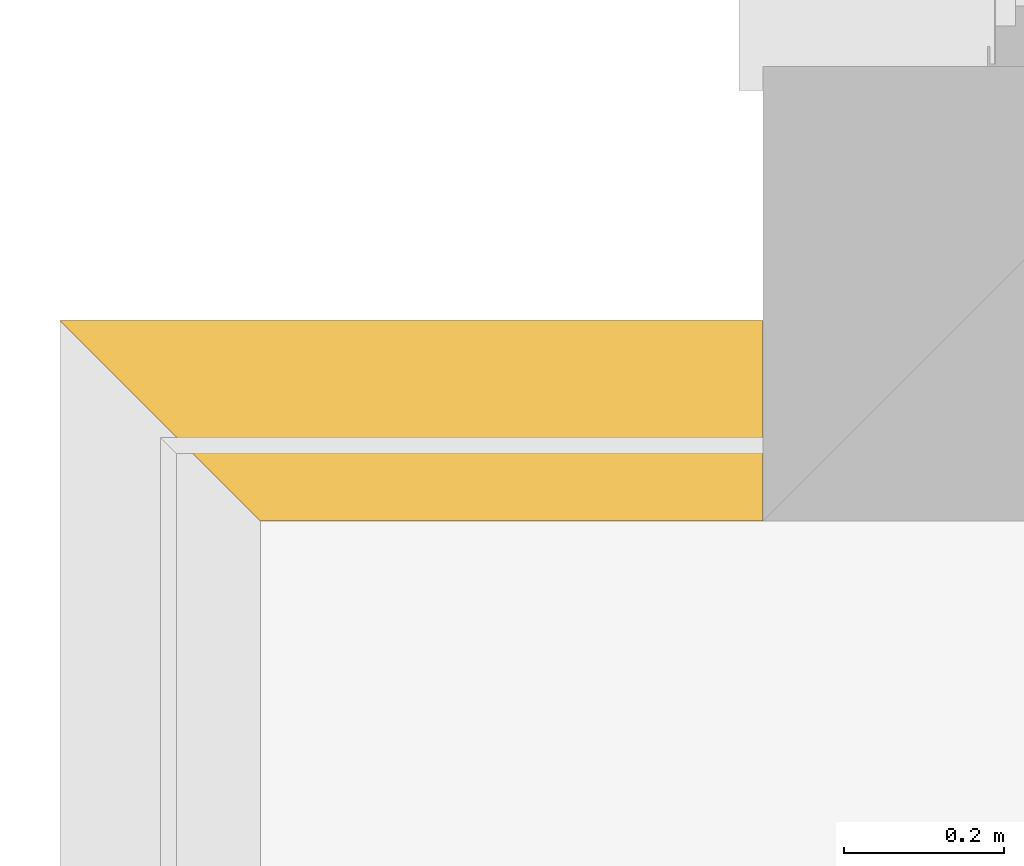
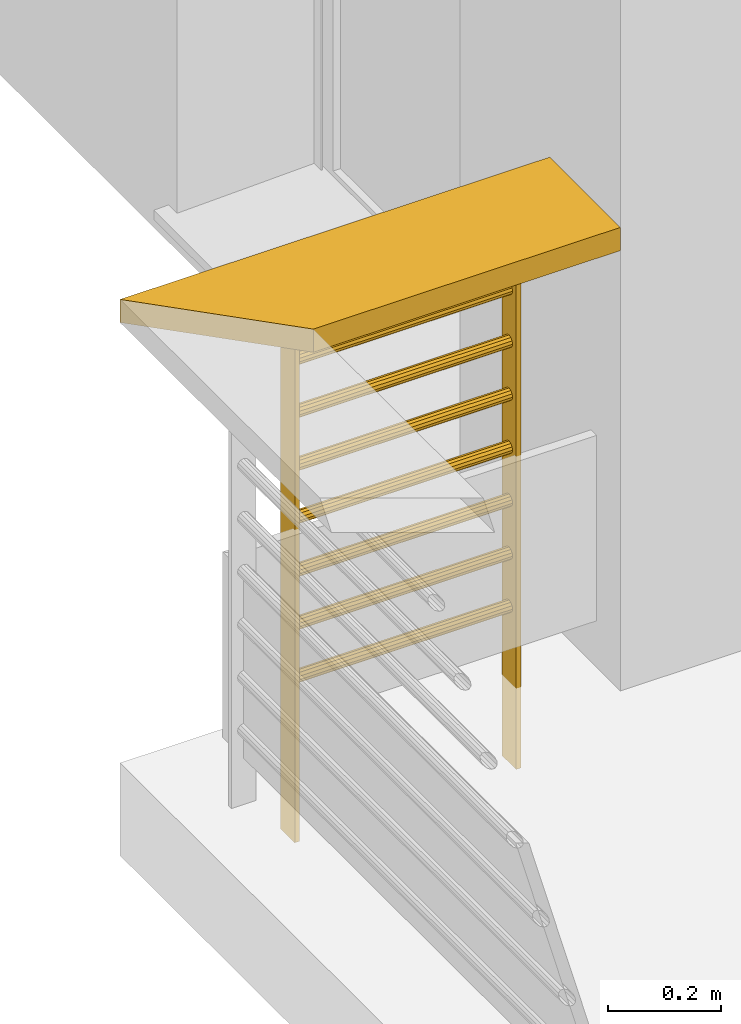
# One storey, part 101 of 164: 1 railing.
"""IFC2X3 building model written with IfcOpenShell, lengths in millimetres."""

from ifc_helpers import new_model, entity, si_unit, converted_unit, derived_unit, money_unit, direction, frame, origin_with_axes, place, context, subcontext, project, spatial, faceted_brep, type_object, element, save


model = new_model("IFC2X3")

# Units and contexts
model_context = context("Model", 3, precision=0.01, world=origin_with_axes(), true_north=direction((0.0, 1.0)))
body_context = subcontext(model_context, "Body", "Model", "MODEL_VIEW")
ifc_project = project(units=[si_unit("LENGTHUNIT", "METRE", prefix="MILLI"), si_unit("AREAUNIT", "SQUARE_METRE"), si_unit("VOLUMEUNIT", "CUBIC_METRE"), converted_unit("PLANEANGLEUNIT", "DEGREE", entity("IfcPlaneAngleMeasure", 0.0174532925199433), si_unit("PLANEANGLEUNIT", "RADIAN"), dimensions=[0, 0, 0, 0, 0, 0, 0]), money_unit("USD"), converted_unit("TIMEUNIT", "Year", entity("IfcTimeMeasure", 31557600.0), si_unit("TIMEUNIT", "SECOND"), dimensions=[0, 0, 1, 0, 0, 0, 0]), si_unit("MASSUNIT", "GRAM", prefix="KILO"), si_unit("THERMODYNAMICTEMPERATUREUNIT", "DEGREE_CELSIUS"), si_unit("LUMINOUSINTENSITYUNIT", "LUMEN"), si_unit("ENERGYUNIT", "JOULE", prefix="MEGA"), derived_unit("THERMALCONDUCTANCEUNIT", [(si_unit("POWERUNIT", "WATT"), 1), (si_unit("LENGTHUNIT", "METRE"), -1), (si_unit("THERMODYNAMICTEMPERATUREUNIT", "KELVIN"), -1)]), derived_unit("SPECIFICHEATCAPACITYUNIT", [(si_unit("ENERGYUNIT", "JOULE"), 1), (si_unit("MASSUNIT", "GRAM", prefix="KILO"), -1), (si_unit("THERMODYNAMICTEMPERATUREUNIT", "KELVIN"), -1)]), derived_unit("MASSDENSITYUNIT", [(si_unit("MASSUNIT", "GRAM", prefix="KILO"), 1), (si_unit("VOLUMEUNIT", "CUBIC_METRE"), -1)])], contexts=[model_context])

# Site, building, storey
site_placement = place(None, origin_with_axes())
site = spatial("IfcSite", under=ifc_project, at=site_placement, Name="Site", CompositionType="ELEMENT")
building_placement = place(site_placement, origin_with_axes())
building = spatial("IfcBuilding", under=site, at=building_placement, Name="Bâtiment", CompositionType="ELEMENT")
storey_placement = place(building_placement, frame((0.0, 0.0, 5750.0), z_axis=(0.0, 0.0, 1.0), x_axis=(1.0, 0.0, 0.0)))
storey = spatial("IfcBuildingStorey", under=building, at=storey_placement, Name="Etage1", CompositionType="ELEMENT", Elevation=5750.0)

# Railing
railing_type = type_object("IfcRailingType", Name="Cadre avec câble 01 20", PredefinedType="NOTDEFINED")
railing_placement = place(storey_placement, frame((2216634.233344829, -654916.4677782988, 0.0), z_axis=(0.0, 0.0, 1.0), x_axis=(1.0, 0.0, 0.0)))
element("IfcRailing", 1, at=railing_placement, inside=storey, type_object=railing_type, Name="Obj.-002", PredefinedType="NOTDEFINED", context=body_context, shape_type="Brep", body=[
    faceted_brep([(-626.6148770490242, -125.0, 950.0), (-876.6148770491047, 125.0, 950.0), (0.0, 125.0, 950.0), (0.0, -125.0, 950.0), (-626.6148770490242, -125.0, 1000.0), (-876.6148770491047, 125.0, 1000.0), (0.0, 125.0, 1000.0), (0.0, -125.0, 1000.0)], [[[0, 1, 2, 3]], [[1, 0, 4, 5]], [[1, 5, 6, 2]], [[3, 2, 6, 7]], [[0, 3, 7, 4]], [[5, 4, 7, 6]]]),
    faceted_brep([(-145.0, -25.0, -176.0), (-145.0, -25.0, 950.0), (-155.0, -25.0, 950.0), (-155.0, -25.0, -176.0), (-145.0, 25.0, -176.0), (-145.0, 25.0, 950.0), (-155.0, 25.0, 950.0), (-155.0, 25.0, -176.0)], [[[0, 1, 2, 3]], [[4, 5, 1, 0]], [[1, 5, 6, 2]], [[3, 2, 6, 7]], [[0, 3, 7, 4]], [[7, 6, 5, 4]]]),
    faceted_brep([(-596.6148770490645, -25.0, -176.0), (-596.6148770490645, -25.0, 950.0), (-606.6148770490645, -25.0, 950.0), (-606.6148770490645, -25.0, -176.0), (-596.6148770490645, 25.0, -176.0), (-596.6148770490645, 25.0, 950.0), (-606.6148770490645, 25.0, 950.0), (-606.6148770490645, 25.0, -176.0)], [[[0, 1, 2, 3]], [[4, 5, 1, 0]], [[1, 5, 6, 2]], [[3, 2, 6, 7]], [[0, 3, 7, 4]], [[7, 6, 5, 4]]]),
    faceted_brep([(-155.0, 10.82531754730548, 156.25), (-596.6148770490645, 10.82531754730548, 156.25), (-596.6148770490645, 12.5, 162.5), (-155.0, 12.5, 162.5), (-155.0, 6.249999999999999, 151.6746824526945), (-596.6148770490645, 6.249999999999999, 151.6746824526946), (-596.6148770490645, 0.0, 150.0), (-596.6148770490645, -6.250000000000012, 151.6746824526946), (-596.6148770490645, -10.82531754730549, 156.2500000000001), (-596.6148770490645, -12.5, 162.5), (-596.6148770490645, -10.82531754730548, 168.75), (-596.6148770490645, -6.249999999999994, 173.3253175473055), (-596.6148770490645, 0.0, 175.0000000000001), (-596.6148770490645, 6.250000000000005, 173.3253175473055), (-596.6148770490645, 10.82531754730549, 168.75), (-155.0, 10.82531754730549, 168.75), (-155.0, 6.250000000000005, 173.3253175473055), (-155.0, 0.0, 175.0), (-155.0, -6.249999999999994, 173.3253175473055), (-155.0, -10.82531754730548, 168.75), (-155.0, -12.5, 162.5), (-155.0, -10.82531754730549, 156.25), (-155.0, -6.250000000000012, 151.6746824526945), (-155.0, 0.0, 150.0)], [[[0, 1, 2, 3]], [[4, 5, 1, 0]], [[1, 5, 6, 7, 8, 9, 10, 11, 12, 13, 14, 2]], [[3, 2, 14, 15]], [[15, 16, 17, 18, 19, 20, 21, 22, 23, 4, 0, 3]], [[23, 6, 5, 4]], [[22, 7, 6, 23]], [[21, 8, 7, 22]], [[20, 9, 8, 21]], [[19, 10, 9, 20]], [[18, 11, 10, 19]], [[17, 12, 11, 18]], [[16, 13, 12, 17]], [[15, 14, 13, 16]]]),
    faceted_brep([(-155.0, 10.82531754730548, 270.5357142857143), (-596.6148770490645, 10.82531754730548, 270.5357142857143), (-596.6148770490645, 12.5, 276.7857142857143), (-155.0, 12.5, 276.7857142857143), (-155.0, 6.249999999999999, 265.9603967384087), (-596.6148770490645, 6.249999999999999, 265.9603967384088), (-596.6148770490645, 0.0, 264.2857142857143), (-596.6148770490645, -6.250000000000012, 265.9603967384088), (-596.6148770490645, -10.82531754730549, 270.5357142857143), (-596.6148770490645, -12.5, 276.7857142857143), (-596.6148770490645, -10.82531754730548, 283.0357142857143), (-596.6148770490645, -6.249999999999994, 287.6110318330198), (-596.6148770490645, 0.0, 289.2857142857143), (-596.6148770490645, 6.250000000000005, 287.6110318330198), (-596.6148770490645, 10.82531754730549, 283.0357142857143), (-155.0, 10.82531754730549, 283.0357142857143), (-155.0, 6.250000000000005, 287.6110318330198), (-155.0, 0.0, 289.2857142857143), (-155.0, -6.249999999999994, 287.6110318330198), (-155.0, -10.82531754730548, 283.0357142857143), (-155.0, -12.5, 276.7857142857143), (-155.0, -10.82531754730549, 270.5357142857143), (-155.0, -6.250000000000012, 265.9603967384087), (-155.0, 0.0, 264.2857142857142)], [[[0, 1, 2, 3]], [[4, 5, 1, 0]], [[1, 5, 6, 7, 8, 9, 10, 11, 12, 13, 14, 2]], [[3, 2, 14, 15]], [[15, 16, 17, 18, 19, 20, 21, 22, 23, 4, 0, 3]], [[23, 6, 5, 4]], [[22, 7, 6, 23]], [[21, 8, 7, 22]], [[20, 9, 8, 21]], [[19, 10, 9, 20]], [[18, 11, 10, 19]], [[17, 12, 11, 18]], [[16, 13, 12, 17]], [[15, 14, 13, 16]]]),
    faceted_brep([(-155.0, 10.82531754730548, 384.8214285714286), (-596.6148770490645, 10.82531754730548, 384.8214285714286), (-596.6148770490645, 12.5, 391.0714285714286), (-155.0, 12.5, 391.0714285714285), (-155.0, 6.249999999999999, 380.2461110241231), (-596.6148770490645, 6.249999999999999, 380.2461110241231), (-596.6148770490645, 0.0, 378.5714285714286), (-596.6148770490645, -6.250000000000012, 380.2461110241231), (-596.6148770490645, -10.82531754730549, 384.8214285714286), (-596.6148770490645, -12.5, 391.0714285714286), (-596.6148770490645, -10.82531754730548, 397.3214285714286), (-596.6148770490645, -6.249999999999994, 401.896746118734), (-596.6148770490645, 0.0, 403.5714285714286), (-596.6148770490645, 6.250000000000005, 401.896746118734), (-596.6148770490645, 10.82531754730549, 397.3214285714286), (-155.0, 10.82531754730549, 397.3214285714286), (-155.0, 6.250000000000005, 401.896746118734), (-155.0, 0.0, 403.5714285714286), (-155.0, -6.249999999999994, 401.896746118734), (-155.0, -10.82531754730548, 397.3214285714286), (-155.0, -12.5, 391.0714285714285), (-155.0, -10.82531754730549, 384.8214285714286), (-155.0, -6.250000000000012, 380.2461110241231), (-155.0, 0.0, 378.5714285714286)], [[[0, 1, 2, 3]], [[4, 5, 1, 0]], [[1, 5, 6, 7, 8, 9, 10, 11, 12, 13, 14, 2]], [[3, 2, 14, 15]], [[15, 16, 17, 18, 19, 20, 21, 22, 23, 4, 0, 3]], [[23, 6, 5, 4]], [[22, 7, 6, 23]], [[21, 8, 7, 22]], [[20, 9, 8, 21]], [[19, 10, 9, 20]], [[18, 11, 10, 19]], [[17, 12, 11, 18]], [[16, 13, 12, 17]], [[15, 14, 13, 16]]]),
    faceted_brep([(-155.0, 10.82531754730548, 499.1071428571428), (-596.6148770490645, 10.82531754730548, 499.1071428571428), (-596.6148770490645, 12.5, 505.3571428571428), (-155.0, 12.5, 505.3571428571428), (-155.0, 6.249999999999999, 494.5318253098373), (-596.6148770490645, 6.249999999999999, 494.5318253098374), (-596.6148770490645, 0.0, 492.8571428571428), (-596.6148770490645, -6.250000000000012, 494.5318253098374), (-596.6148770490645, -10.82531754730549, 499.1071428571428), (-596.6148770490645, -12.5, 505.3571428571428), (-596.6148770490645, -10.82531754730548, 511.6071428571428), (-596.6148770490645, -6.249999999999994, 516.1824604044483), (-596.6148770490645, 0.0, 517.8571428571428), (-596.6148770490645, 6.250000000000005, 516.1824604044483), (-596.6148770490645, 10.82531754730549, 511.6071428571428), (-155.0, 10.82531754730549, 511.6071428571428), (-155.0, 6.250000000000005, 516.1824604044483), (-155.0, 0.0, 517.8571428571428), (-155.0, -6.249999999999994, 516.1824604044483), (-155.0, -10.82531754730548, 511.6071428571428), (-155.0, -12.5, 505.3571428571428), (-155.0, -10.82531754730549, 499.1071428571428), (-155.0, -6.250000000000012, 494.5318253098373), (-155.0, 0.0, 492.8571428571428)], [[[0, 1, 2, 3]], [[4, 5, 1, 0]], [[1, 5, 6, 7, 8, 9, 10, 11, 12, 13, 14, 2]], [[3, 2, 14, 15]], [[15, 16, 17, 18, 19, 20, 21, 22, 23, 4, 0, 3]], [[23, 6, 5, 4]], [[22, 7, 6, 23]], [[21, 8, 7, 22]], [[20, 9, 8, 21]], [[19, 10, 9, 20]], [[18, 11, 10, 19]], [[17, 12, 11, 18]], [[16, 13, 12, 17]], [[15, 14, 13, 16]]]),
    faceted_brep([(-155.0, 10.82531754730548, 613.3928571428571), (-596.6148770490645, 10.82531754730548, 613.3928571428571), (-596.6148770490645, 12.5, 619.6428571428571), (-155.0, 12.5, 619.642857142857), (-155.0, 6.249999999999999, 608.8175395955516), (-596.6148770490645, 6.249999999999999, 608.8175395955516), (-596.6148770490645, 0.0, 607.1428571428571), (-596.6148770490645, -6.250000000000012, 608.8175395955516), (-596.6148770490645, -10.82531754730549, 613.3928571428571), (-596.6148770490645, -12.5, 619.6428571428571), (-596.6148770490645, -10.82531754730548, 625.8928571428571), (-596.6148770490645, -6.249999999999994, 630.4681746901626), (-596.6148770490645, 0.0, 632.1428571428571), (-596.6148770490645, 6.250000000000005, 630.4681746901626), (-596.6148770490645, 10.82531754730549, 625.8928571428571), (-155.0, 10.82531754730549, 625.892857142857), (-155.0, 6.250000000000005, 630.4681746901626), (-155.0, 0.0, 632.1428571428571), (-155.0, -6.249999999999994, 630.4681746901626), (-155.0, -10.82531754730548, 625.892857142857), (-155.0, -12.5, 619.642857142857), (-155.0, -10.82531754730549, 613.3928571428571), (-155.0, -6.250000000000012, 608.8175395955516), (-155.0, 0.0, 607.1428571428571)], [[[0, 1, 2, 3]], [[4, 5, 1, 0]], [[1, 5, 6, 7, 8, 9, 10, 11, 12, 13, 14, 2]], [[3, 2, 14, 15]], [[15, 16, 17, 18, 19, 20, 21, 22, 23, 4, 0, 3]], [[23, 6, 5, 4]], [[22, 7, 6, 23]], [[21, 8, 7, 22]], [[20, 9, 8, 21]], [[19, 10, 9, 20]], [[18, 11, 10, 19]], [[17, 12, 11, 18]], [[16, 13, 12, 17]], [[15, 14, 13, 16]]]),
    faceted_brep([(-155.0, 10.82531754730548, 727.6785714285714), (-596.6148770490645, 10.82531754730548, 727.6785714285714), (-596.6148770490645, 12.5, 733.9285714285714), (-155.0, 12.5, 733.9285714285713), (-155.0, 6.249999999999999, 723.1032538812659), (-596.6148770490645, 6.249999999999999, 723.1032538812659), (-596.6148770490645, 0.0, 721.4285714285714), (-596.6148770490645, -6.250000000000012, 723.1032538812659), (-596.6148770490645, -10.82531754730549, 727.6785714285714), (-596.6148770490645, -12.5, 733.9285714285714), (-596.6148770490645, -10.82531754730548, 740.1785714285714), (-596.6148770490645, -6.249999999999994, 744.7538889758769), (-596.6148770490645, 0.0, 746.4285714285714), (-596.6148770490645, 6.250000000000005, 744.7538889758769), (-596.6148770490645, 10.82531754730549, 740.1785714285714), (-155.0, 10.82531754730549, 740.1785714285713), (-155.0, 6.250000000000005, 744.7538889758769), (-155.0, 0.0, 746.4285714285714), (-155.0, -6.249999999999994, 744.7538889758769), (-155.0, -10.82531754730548, 740.1785714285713), (-155.0, -12.5, 733.9285714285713), (-155.0, -10.82531754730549, 727.6785714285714), (-155.0, -6.250000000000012, 723.1032538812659), (-155.0, 0.0, 721.4285714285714)], [[[0, 1, 2, 3]], [[4, 5, 1, 0]], [[1, 5, 6, 7, 8, 9, 10, 11, 12, 13, 14, 2]], [[3, 2, 14, 15]], [[15, 16, 17, 18, 19, 20, 21, 22, 23, 4, 0, 3]], [[23, 6, 5, 4]], [[22, 7, 6, 23]], [[21, 8, 7, 22]], [[20, 9, 8, 21]], [[19, 10, 9, 20]], [[18, 11, 10, 19]], [[17, 12, 11, 18]], [[16, 13, 12, 17]], [[15, 14, 13, 16]]]),
    faceted_brep([(-155.0, 10.82531754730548, 841.9642857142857), (-596.6148770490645, 10.82531754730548, 841.9642857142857), (-596.6148770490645, 12.5, 848.2142857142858), (-155.0, 12.5, 848.2142857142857), (-155.0, 6.249999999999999, 837.3889681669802), (-596.6148770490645, 6.249999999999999, 837.3889681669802), (-596.6148770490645, 0.0, 835.7142857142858), (-596.6148770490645, -6.250000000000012, 837.3889681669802), (-596.6148770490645, -10.82531754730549, 841.9642857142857), (-596.6148770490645, -12.5, 848.2142857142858), (-596.6148770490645, -10.82531754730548, 854.4642857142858), (-596.6148770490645, -6.249999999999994, 859.0396032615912), (-596.6148770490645, 0.0, 860.7142857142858), (-596.6148770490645, 6.250000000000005, 859.0396032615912), (-596.6148770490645, 10.82531754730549, 854.4642857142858), (-155.0, 10.82531754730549, 854.4642857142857), (-155.0, 6.250000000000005, 859.0396032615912), (-155.0, 0.0, 860.7142857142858), (-155.0, -6.249999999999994, 859.0396032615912), (-155.0, -10.82531754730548, 854.4642857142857), (-155.0, -12.5, 848.2142857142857), (-155.0, -10.82531754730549, 841.9642857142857), (-155.0, -6.250000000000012, 837.3889681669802), (-155.0, 0.0, 835.7142857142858)], [[[0, 1, 2, 3]], [[4, 5, 1, 0]], [[1, 5, 6, 7, 8, 9, 10, 11, 12, 13, 14, 2]], [[3, 2, 14, 15]], [[15, 16, 17, 18, 19, 20, 21, 22, 23, 4, 0, 3]], [[23, 6, 5, 4]], [[22, 7, 6, 23]], [[21, 8, 7, 22]], [[20, 9, 8, 21]], [[19, 10, 9, 20]], [[18, 11, 10, 19]], [[17, 12, 11, 18]], [[16, 13, 12, 17]], [[15, 14, 13, 16]]]),
])

save(model, "model.ifc")
